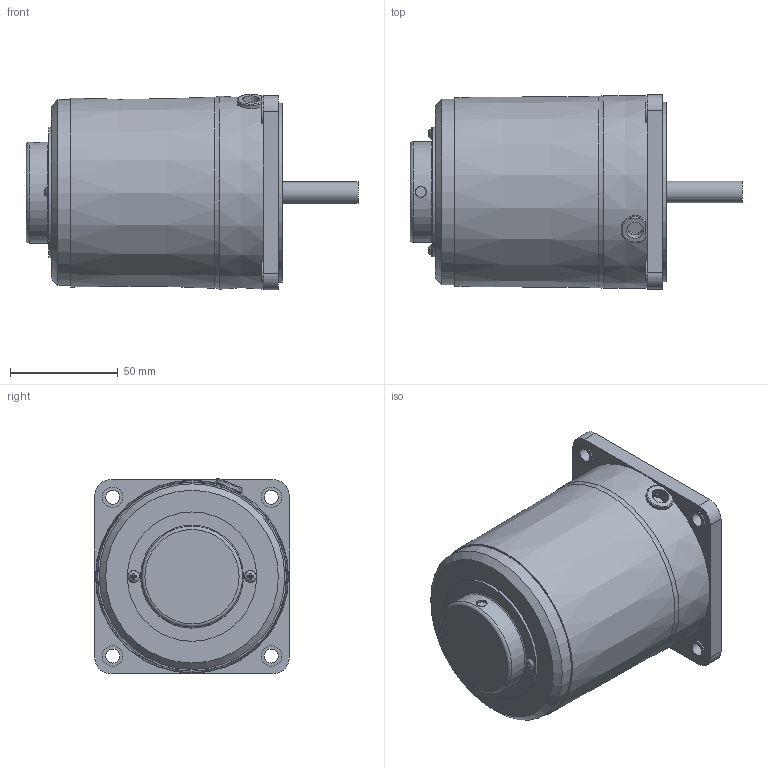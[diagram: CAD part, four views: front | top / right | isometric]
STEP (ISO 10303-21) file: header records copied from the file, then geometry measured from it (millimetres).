
FILE_DESCRIPTION((''),'2;1');
FILE_NAME('D:\STP파일\40W MOTOR\SPEED CONTROL TYPE\S9I40S-S.stp','2013-05-20T16:53:59',('leebh'),(''),'Autodesk Inventor 2011','Autodesk Inventor 2011','');
FILE_SCHEMA(('AUTOMOTIVE_DESIGN { 1 0 10303 214 1 1 1 1 }'));
Length unit declared in the file: millimetre
Products named in the file (1): 부품3
Bounding box: 153.8 x 90 x 90.6 mm (x, y, z)
Volume: 669977.6 mm3; surface area: 52332 mm2
Topology: 1 solids, 6 shells, 138 faces, 317 edges, 207 vertices
Faces by surface type: plane 82, cylinder 42, torus 9, cone 3, bspline 2
Full cylindrical faces by diameter (mm): 3 x2, 3.5 x2, 5 x1, 5.6 x2, 6.5 x4, 8 x1, 9.5 x4, 10 x2, 40 x1, 44.7 x1, 46.7 x1, 47.7 x1, 59.9 x1, 83 x1, 86 x1
Entity records: 4001 total; most frequent: CARTESIAN_POINT 947, DIRECTION 610, ORIENTED_EDGE 544, EDGE_CURVE 272, AXIS2_PLACEMENT_3D 232, EDGE_LOOP 209, VERTEX_POINT 201, VECTOR 146
